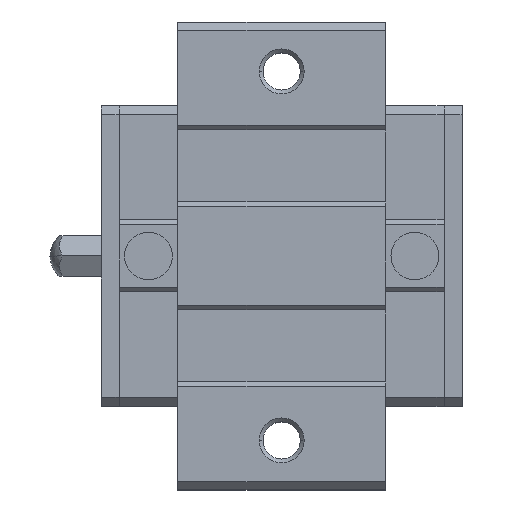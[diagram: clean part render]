
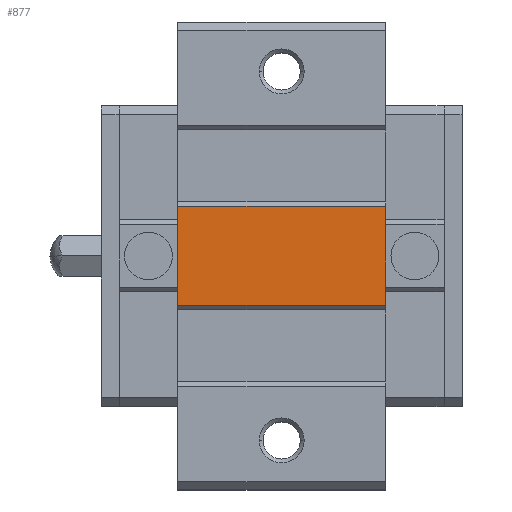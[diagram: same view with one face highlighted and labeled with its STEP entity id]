
A CAD part, top view. The second image highlights one B-rep face of the part: STEP entity #877.
In plain terms, the highlighted planar face has unit normal (0, 0, 1).
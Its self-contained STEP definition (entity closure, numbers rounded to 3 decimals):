
#816=CARTESIAN_POINT('POINT56',(31.6,-5.5,19.5));
#817=VERTEX_POINT('VERTEX56',#816);
#824=CARTESIAN_POINT('POINT57',(8.5,-5.5,19.5));
#825=VERTEX_POINT('VERTEX57',#824);
#826=CARTESIAN_POINT('POS96',(8.5,-5.5,19.5));
#827=DIRECTION('DIR135',(1.,0.,0.));
#828=VECTOR('VEC57',#827,1.);
#829=LINE('STRAIGHT57',#826,#828);
#830=EDGE_CURVE('EDGE82',#825,#817,#829,.T.);
#847=CARTESIAN_POINT('POINT58',(31.6,5.5,19.5));
#848=VERTEX_POINT('VERTEX58',#847);
#849=CARTESIAN_POINT('POS99',(31.6,5.5,19.5));
#850=DIRECTION('DIR139',(0.,1.,0.));
#851=VECTOR('VEC59',#850,1.);
#852=LINE('STRAIGHT59',#849,#851);
#853=EDGE_CURVE('EDGE84',#817,#848,#852,.T.);
#854=ORIENTED_EDGE('COEDGE130',*,*,#853,.T.);
#855=CARTESIAN_POINT('POINT59',(8.5,5.5,19.5));
#856=VERTEX_POINT('VERTEX59',#855);
#857=CARTESIAN_POINT('POS100',(8.5,5.5,19.5));
#858=DIRECTION('DIR140',(1.,0.,0.));
#859=VECTOR('VEC60',#858,1.);
#860=LINE('STRAIGHT60',#857,#859);
#861=EDGE_CURVE('EDGE85',#856,#848,#860,.T.);
#862=ORIENTED_EDGE('COEDGE131',*,*,#861,.F.);
#863=CARTESIAN_POINT('POS101',(8.5,0.,19.5));
#864=DIRECTION('DIR141',(0.,-1.,0.));
#865=VECTOR('VEC61',#864,1.);
#866=LINE('STRAIGHT61',#863,#865);
#867=EDGE_CURVE('EDGE86',#856,#825,#866,.T.);
#868=ORIENTED_EDGE('COEDGE132',*,*,#867,.T.);
#869=ORIENTED_EDGE('COEDGE133',*,*,#830,.T.);
#870=EDGE_LOOP('NONE',(#854,#862,#868,#869));
#871=FACE_BOUND('LOOP1',#870,.T.);
#872=CARTESIAN_POINT('POS102',(8.5,0.,19.5));
#873=DIRECTION('DIR142',(0.,0.,1.));
#874=DIRECTION('DIR143',(1.,0.,0.));
#875=AXIS2_PLACEMENT_3D('AXIS41',#872,#873,#874);
#876=PLANE('PLANE17',#875);
#877=ADVANCED_FACE('FACE29',(#871),#876,.T.);
